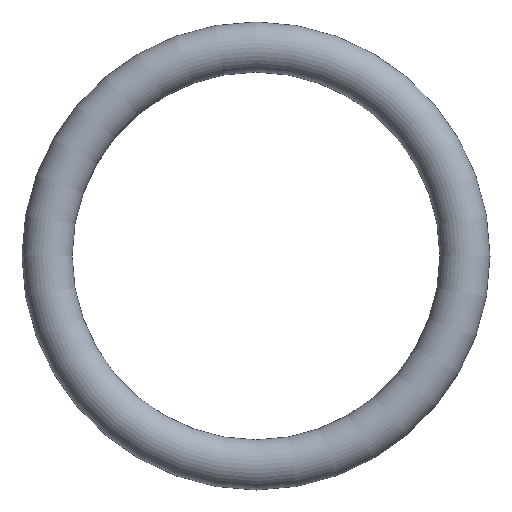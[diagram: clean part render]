
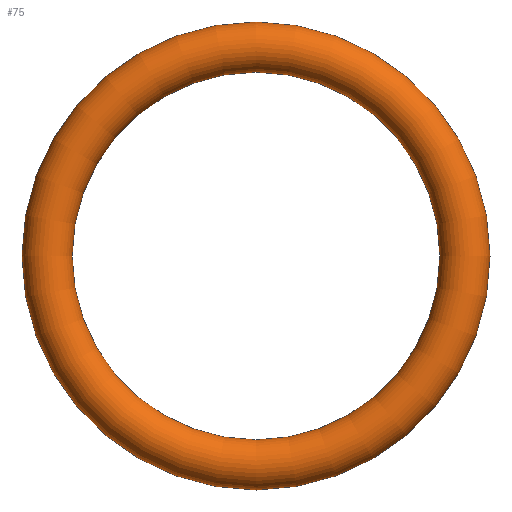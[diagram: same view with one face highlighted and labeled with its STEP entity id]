
A CAD part, front view. The second image highlights one B-rep face of the part: STEP entity #75.
In plain terms, the highlighted toroidal (fillet/blend) face has major radius 12.5 mm and minor radius 1.5 mm.
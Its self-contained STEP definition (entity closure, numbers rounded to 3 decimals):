
#75 = ADVANCED_FACE( '', ( #77 ), #78, .T. );
#77 = FACE_BOUND( '', #79, .T. );
#78 = TOROIDAL_SURFACE( '', #80, 12.5, 1.5 );
#79 = VERTEX_LOOP( '', #81 );
#80 = AXIS2_PLACEMENT_3D( '', #82, #83, #84 );
#81 = VERTEX_POINT( '', #85 );
#82 = CARTESIAN_POINT( '', ( 0., 0., 0. ) );
#83 = DIRECTION( '', ( 0., -1., 0. ) );
#84 = DIRECTION( '', ( 0., 0., -1. ) );
#85 = CARTESIAN_POINT( '', ( 0., 0., -14. ) );
